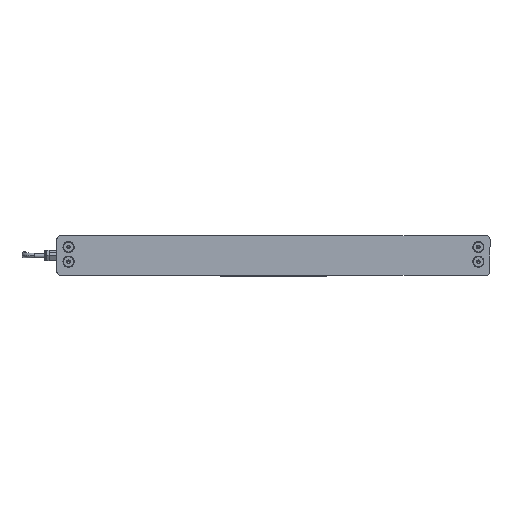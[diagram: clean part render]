
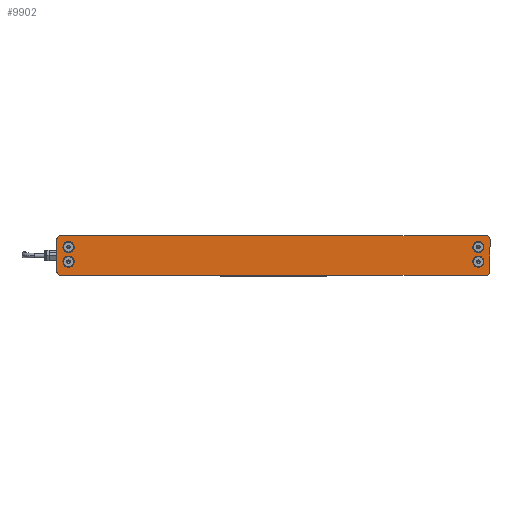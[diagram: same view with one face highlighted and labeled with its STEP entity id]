
A CAD part, left-side view. The second image highlights one B-rep face of the part: STEP entity #9902.
In plain terms, the highlighted planar face has unit normal (-1, 0, 0) as drawn and (0, 0, -1) by its records, which use the part's own axes.
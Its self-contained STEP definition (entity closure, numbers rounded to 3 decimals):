
#71 = AXIS2_PLACEMENT_3D ( 'NONE', #24554, #10061, #18481 ) ;
#123 = EDGE_CURVE ( 'NONE', #12020, #4554, #12595, .T. ) ;
#332 = DIRECTION ( 'NONE',  ( 0., 0., 1. ) ) ;
#512 = FACE_BOUND ( 'NONE', #14778, .T. ) ;
#606 = DIRECTION ( 'NONE',  ( -1., 0., 0. ) ) ;
#810 = VERTEX_POINT ( 'NONE', #4784 ) ;
#822 = CARTESIAN_POINT ( 'NONE',  ( -206.3, 8.5, 0. ) ) ;
#1018 = VERTEX_POINT ( 'NONE', #19507 ) ;
#1087 = CARTESIAN_POINT ( 'NONE',  ( -218., -16., 0. ) ) ;
#1094 = CARTESIAN_POINT ( 'NONE',  ( 211.9, -6.3, 0. ) ) ;
#1219 = AXIS2_PLACEMENT_3D ( 'NONE', #19899, #23973, #21862 ) ;
#1221 = CARTESIAN_POINT ( 'NONE',  ( 200.7, -6.3, 0. ) ) ;
#1373 = EDGE_CURVE ( 'NONE', #9553, #810, #19600, .T. ) ;
#1381 = CIRCLE ( 'NONE', #24520, 4. ) ;
#1515 = ORIENTED_EDGE ( 'NONE', *, *, #9061, .F. ) ;
#1526 = EDGE_LOOP ( 'NONE', ( #24700, #3965 ) ) ;
#1539 = CARTESIAN_POINT ( 'NONE',  ( -214., -20., 0. ) ) ;
#1643 = DIRECTION ( 'NONE',  ( 0., 0., -1. ) ) ;
#1646 = EDGE_CURVE ( 'NONE', #25984, #16506, #15201, .T. ) ;
#1735 = ORIENTED_EDGE ( 'NONE', *, *, #1646, .F. ) ;
#2099 = AXIS2_PLACEMENT_3D ( 'NONE', #24731, #22764, #4733 ) ;
#2109 = CARTESIAN_POINT ( 'NONE',  ( 214., 20., 0. ) ) ;
#2186 = EDGE_CURVE ( 'NONE', #10267, #22584, #24568, .T. ) ;
#2363 = AXIS2_PLACEMENT_3D ( 'NONE', #15948, #19382, #15698 ) ;
#2580 = CARTESIAN_POINT ( 'NONE',  ( 214., 16., 0. ) ) ;
#2664 = ORIENTED_EDGE ( 'NONE', *, *, #17404, .F. ) ;
#3152 = CIRCLE ( 'NONE', #25892, 4. ) ;
#3197 = CARTESIAN_POINT ( 'NONE',  ( -200.7, -6.3, 0. ) ) ;
#3404 = AXIS2_PLACEMENT_3D ( 'NONE', #822, #15057, #24800 ) ;
#3442 = DIRECTION ( 'NONE',  ( 0., 1., 0. ) ) ;
#3965 = ORIENTED_EDGE ( 'NONE', *, *, #7818, .F. ) ;
#4484 = EDGE_CURVE ( 'NONE', #11805, #9553, #9225, .T. ) ;
#4554 = VERTEX_POINT ( 'NONE', #3197 ) ;
#4599 = DIRECTION ( 'NONE',  ( 0., 0., -1. ) ) ;
#4714 = CIRCLE ( 'NONE', #71, 5.6 ) ;
#4733 = DIRECTION ( 'NONE',  ( -1., 0., 0. ) ) ;
#4784 = CARTESIAN_POINT ( 'NONE',  ( 214., -20., 0. ) ) ;
#4868 = PLANE ( 'NONE',  #8916 ) ;
#5018 = CARTESIAN_POINT ( 'NONE',  ( -214., -20., 0. ) ) ;
#5189 = CARTESIAN_POINT ( 'NONE',  ( -214., -16., 0. ) ) ;
#5866 = CARTESIAN_POINT ( 'NONE',  ( -206.3, 8.5, 0. ) ) ;
#5869 = DIRECTION ( 'NONE',  ( 0., 0., -1. ) ) ;
#6340 = CARTESIAN_POINT ( 'NONE',  ( 200.7, 8.5, 0. ) ) ;
#6524 = CARTESIAN_POINT ( 'NONE',  ( -211.9, -6.3, 0. ) ) ;
#6563 = FACE_BOUND ( 'NONE', #8878, .T. ) ;
#6648 = CARTESIAN_POINT ( 'NONE',  ( -214., 20., 0. ) ) ;
#6737 = CIRCLE ( 'NONE', #2099, 5.6 ) ;
#7033 = DIRECTION ( 'NONE',  ( 0., 0., -1. ) ) ;
#7261 = CARTESIAN_POINT ( 'NONE',  ( 218., -16., 0. ) ) ;
#7589 = CARTESIAN_POINT ( 'NONE',  ( 218., 16., 0. ) ) ;
#7620 = EDGE_CURVE ( 'NONE', #21893, #21052, #8968, .T. ) ;
#7760 = EDGE_CURVE ( 'NONE', #22584, #10267, #6737, .T. ) ;
#7818 = EDGE_CURVE ( 'NONE', #4554, #12020, #8842, .T. ) ;
#8057 = EDGE_CURVE ( 'NONE', #16506, #25984, #10129, .T. ) ;
#8439 = EDGE_LOOP ( 'NONE', ( #1735, #9533 ) ) ;
#8577 = AXIS2_PLACEMENT_3D ( 'NONE', #25895, #5869, #24060 ) ;
#8842 = CIRCLE ( 'NONE', #12247, 5.6 ) ;
#8878 = EDGE_LOOP ( 'NONE', ( #20732, #19320 ) ) ;
#8916 = AXIS2_PLACEMENT_3D ( 'NONE', #22635, #4599, #25000 ) ;
#8968 = LINE ( 'NONE', #7261, #14300 ) ;
#9048 = VECTOR ( 'NONE', #606, 1000. ) ;
#9061 = EDGE_CURVE ( 'NONE', #20559, #21440, #4714, .T. ) ;
#9225 = CIRCLE ( 'NONE', #21784, 4. ) ;
#9533 = ORIENTED_EDGE ( 'NONE', *, *, #8057, .F. ) ;
#9553 = VERTEX_POINT ( 'NONE', #5018 ) ;
#9586 = DIRECTION ( 'NONE',  ( 1., 0., 0. ) ) ;
#9779 = AXIS2_PLACEMENT_3D ( 'NONE', #14185, #332, #9962 ) ;
#9881 = ORIENTED_EDGE ( 'NONE', *, *, #15811, .F. ) ;
#9902 = ADVANCED_FACE ( 'NONE', ( #512, #6563, #24881, #10809, #14619 ), #4868, .T. ) ;
#9962 = DIRECTION ( 'NONE',  ( -1., 0., 0. ) ) ;
#10061 = DIRECTION ( 'NONE',  ( 0., 0., -1. ) ) ;
#10129 = CIRCLE ( 'NONE', #3404, 5.6 ) ;
#10267 = VERTEX_POINT ( 'NONE', #1221 ) ;
#10377 = CIRCLE ( 'NONE', #2363, 5.6 ) ;
#10424 = CARTESIAN_POINT ( 'NONE',  ( 211.9, 8.5, 0. ) ) ;
#10809 = FACE_BOUND ( 'NONE', #1526, .T. ) ;
#11154 = DIRECTION ( 'NONE',  ( 1., 0., 0. ) ) ;
#11179 = CARTESIAN_POINT ( 'NONE',  ( -218., -16., 0. ) ) ;
#11271 = DIRECTION ( 'NONE',  ( -1., 0., 0. ) ) ;
#11805 = VERTEX_POINT ( 'NONE', #11179 ) ;
#12020 = VERTEX_POINT ( 'NONE', #6524 ) ;
#12205 = ORIENTED_EDGE ( 'NONE', *, *, #13056, .F. ) ;
#12233 = EDGE_CURVE ( 'NONE', #810, #21893, #1381, .T. ) ;
#12247 = AXIS2_PLACEMENT_3D ( 'NONE', #25083, #7033, #11271 ) ;
#12595 = CIRCLE ( 'NONE', #1219, 5.6 ) ;
#13007 = DIRECTION ( 'NONE',  ( -1., 0., 0. ) ) ;
#13056 = EDGE_CURVE ( 'NONE', #1018, #25374, #16108, .T. ) ;
#13060 = VECTOR ( 'NONE', #23615, 1000. ) ;
#13486 = LINE ( 'NONE', #1087, #13060 ) ;
#14185 = CARTESIAN_POINT ( 'NONE',  ( -214., 16., 0. ) ) ;
#14300 = VECTOR ( 'NONE', #3442, 1000. ) ;
#14619 = FACE_OUTER_BOUND ( 'NONE', #21035, .T. ) ;
#14778 = EDGE_LOOP ( 'NONE', ( #2664, #1515 ) ) ;
#15057 = DIRECTION ( 'NONE',  ( 0., 0., -1. ) ) ;
#15201 = CIRCLE ( 'NONE', #18543, 5.6 ) ;
#15471 = DIRECTION ( 'NONE',  ( 0., 0., 1. ) ) ;
#15698 = DIRECTION ( 'NONE',  ( -1., 0., 0. ) ) ;
#15811 = EDGE_CURVE ( 'NONE', #21052, #18571, #3152, .T. ) ;
#15824 = EDGE_CURVE ( 'NONE', #18571, #1018, #21024, .T. ) ;
#15911 = ORIENTED_EDGE ( 'NONE', *, *, #12233, .F. ) ;
#15948 = CARTESIAN_POINT ( 'NONE',  ( 206.3, 8.5, 0. ) ) ;
#16108 = CIRCLE ( 'NONE', #9779, 4. ) ;
#16506 = VERTEX_POINT ( 'NONE', #16890 ) ;
#16813 = DIRECTION ( 'NONE',  ( 0., 0., 1. ) ) ;
#16890 = CARTESIAN_POINT ( 'NONE',  ( -200.7, 8.5, 0. ) ) ;
#17404 = EDGE_CURVE ( 'NONE', #21440, #20559, #10377, .T. ) ;
#17468 = DIRECTION ( 'NONE',  ( -1., 0., 0. ) ) ;
#17872 = CARTESIAN_POINT ( 'NONE',  ( -211.9, 8.5, 0. ) ) ;
#18481 = DIRECTION ( 'NONE',  ( -1., 0., 0. ) ) ;
#18543 = AXIS2_PLACEMENT_3D ( 'NONE', #5866, #1643, #17468 ) ;
#18547 = ORIENTED_EDGE ( 'NONE', *, *, #7620, .F. ) ;
#18571 = VERTEX_POINT ( 'NONE', #2109 ) ;
#19320 = ORIENTED_EDGE ( 'NONE', *, *, #7760, .F. ) ;
#19382 = DIRECTION ( 'NONE',  ( 0., 0., -1. ) ) ;
#19507 = CARTESIAN_POINT ( 'NONE',  ( -214., 20., 0. ) ) ;
#19517 = ORIENTED_EDGE ( 'NONE', *, *, #21291, .F. ) ;
#19600 = LINE ( 'NONE', #1539, #21005 ) ;
#19899 = CARTESIAN_POINT ( 'NONE',  ( -206.3, -6.3, 0. ) ) ;
#20559 = VERTEX_POINT ( 'NONE', #10424 ) ;
#20635 = ORIENTED_EDGE ( 'NONE', *, *, #4484, .F. ) ;
#20732 = ORIENTED_EDGE ( 'NONE', *, *, #2186, .F. ) ;
#21005 = VECTOR ( 'NONE', #9586, 1000. ) ;
#21024 = LINE ( 'NONE', #6648, #9048 ) ;
#21035 = EDGE_LOOP ( 'NONE', ( #9881, #18547, #15911, #21150, #20635, #19517, #12205, #25122 ) ) ;
#21052 = VERTEX_POINT ( 'NONE', #7589 ) ;
#21150 = ORIENTED_EDGE ( 'NONE', *, *, #1373, .F. ) ;
#21291 = EDGE_CURVE ( 'NONE', #25374, #11805, #13486, .T. ) ;
#21440 = VERTEX_POINT ( 'NONE', #6340 ) ;
#21660 = CARTESIAN_POINT ( 'NONE',  ( 214., -16., 0. ) ) ;
#21784 = AXIS2_PLACEMENT_3D ( 'NONE', #5189, #22959, #24937 ) ;
#21862 = DIRECTION ( 'NONE',  ( -1., 0., 0. ) ) ;
#21893 = VERTEX_POINT ( 'NONE', #25395 ) ;
#22438 = CARTESIAN_POINT ( 'NONE',  ( -218., 16., 0. ) ) ;
#22584 = VERTEX_POINT ( 'NONE', #1094 ) ;
#22635 = CARTESIAN_POINT ( 'NONE',  ( 214., 16., 0. ) ) ;
#22764 = DIRECTION ( 'NONE',  ( 0., 0., -1. ) ) ;
#22959 = DIRECTION ( 'NONE',  ( 0., 0., 1. ) ) ;
#23615 = DIRECTION ( 'NONE',  ( 0., -1., 0. ) ) ;
#23973 = DIRECTION ( 'NONE',  ( 0., 0., -1. ) ) ;
#24060 = DIRECTION ( 'NONE',  ( -1., 0., 0. ) ) ;
#24520 = AXIS2_PLACEMENT_3D ( 'NONE', #21660, #15471, #11154 ) ;
#24554 = CARTESIAN_POINT ( 'NONE',  ( 206.3, 8.5, 0. ) ) ;
#24568 = CIRCLE ( 'NONE', #8577, 5.6 ) ;
#24700 = ORIENTED_EDGE ( 'NONE', *, *, #123, .F. ) ;
#24731 = CARTESIAN_POINT ( 'NONE',  ( 206.3, -6.3, 0. ) ) ;
#24800 = DIRECTION ( 'NONE',  ( -1., 0., 0. ) ) ;
#24881 = FACE_BOUND ( 'NONE', #8439, .T. ) ;
#24937 = DIRECTION ( 'NONE',  ( -1., 0., 0. ) ) ;
#25000 = DIRECTION ( 'NONE',  ( -1., 0., 0. ) ) ;
#25083 = CARTESIAN_POINT ( 'NONE',  ( -206.3, -6.3, 0. ) ) ;
#25122 = ORIENTED_EDGE ( 'NONE', *, *, #15824, .F. ) ;
#25374 = VERTEX_POINT ( 'NONE', #22438 ) ;
#25395 = CARTESIAN_POINT ( 'NONE',  ( 218., -16., 0. ) ) ;
#25892 = AXIS2_PLACEMENT_3D ( 'NONE', #2580, #16813, #13007 ) ;
#25895 = CARTESIAN_POINT ( 'NONE',  ( 206.3, -6.3, 0. ) ) ;
#25984 = VERTEX_POINT ( 'NONE', #17872 ) ;
